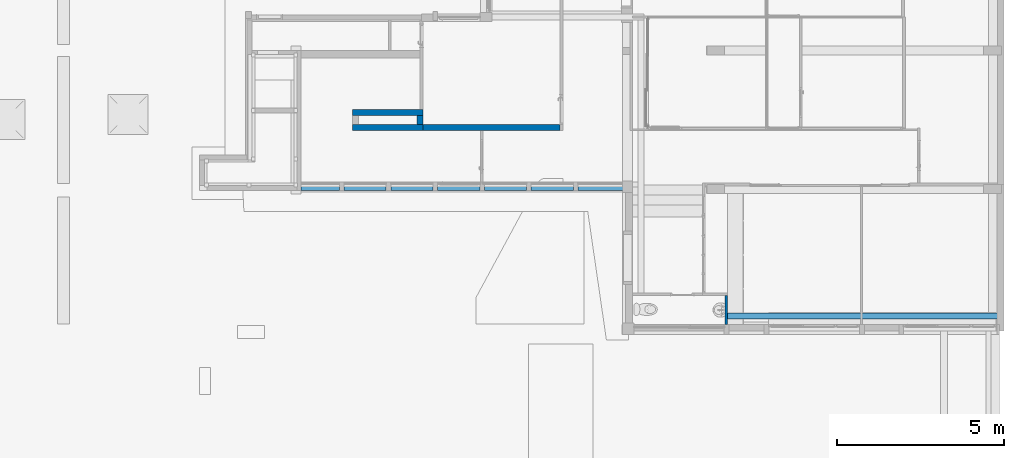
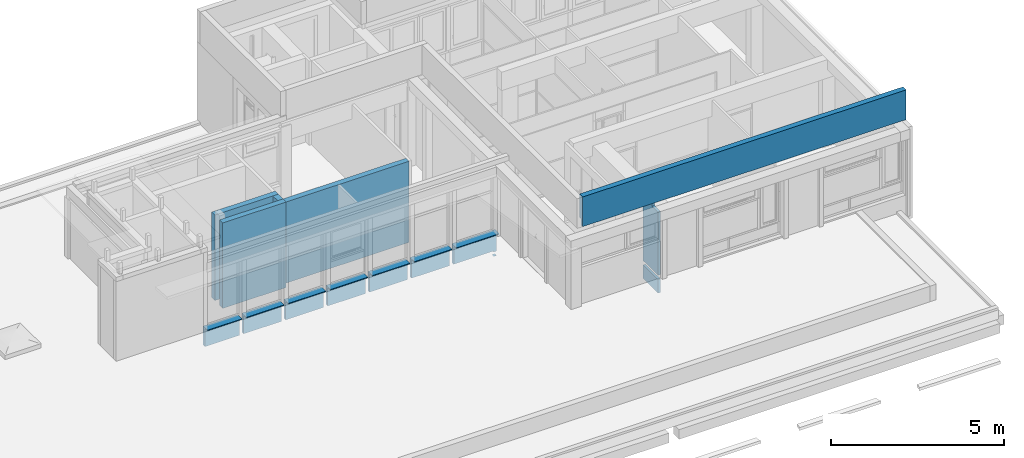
# One storey, part 32 of 49: 7 walls, 1 opening.
"""IFC4 building model written with IfcOpenShell, lengths in metres."""

from ifc_helpers import new_model, entity, si_unit, converted_unit, derived_unit, direction, frame, origin, place, context, subcontext, project, spatial, indexed_curve, outline, extrude, polygons, material, layer, layer_set, type_object, element, save


model = new_model("IFC4")

# Units and contexts
model_context = context("Model", 3, precision=1e-05, world=origin(), true_north=direction((6.12303176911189e-17, 1.0)))
body_context = subcontext(model_context, "Body", "Model", "MODEL_VIEW")
ifc_project = project(units=[si_unit("LENGTHUNIT", "METRE"), si_unit("AREAUNIT", "SQUARE_METRE"), si_unit("VOLUMEUNIT", "CUBIC_METRE"), converted_unit("PLANEANGLEUNIT", "DEGREE", entity("IfcRatioMeasure", 0.0174532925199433), si_unit("PLANEANGLEUNIT", "RADIAN"), dimensions=[0, 0, 0, 0, 0, 0, 0]), si_unit("MASSUNIT", "GRAM", prefix="KILO"), derived_unit("MASSDENSITYUNIT", [(si_unit("MASSUNIT", "GRAM", prefix="KILO"), 1), (si_unit("LENGTHUNIT", "METRE"), -3)]), derived_unit("MOMENTOFINERTIAUNIT", [(si_unit("LENGTHUNIT", "METRE"), 4)]), si_unit("TIMEUNIT", "SECOND"), si_unit("FREQUENCYUNIT", "HERTZ"), si_unit("THERMODYNAMICTEMPERATUREUNIT", "DEGREE_CELSIUS"), derived_unit("THERMALTRANSMITTANCEUNIT", [(si_unit("MASSUNIT", "GRAM", prefix="KILO"), 1), (si_unit("THERMODYNAMICTEMPERATUREUNIT", "KELVIN"), -1), (si_unit("TIMEUNIT", "SECOND"), -3)]), derived_unit("VOLUMETRICFLOWRATEUNIT", [(si_unit("LENGTHUNIT", "METRE"), 3), (si_unit("TIMEUNIT", "SECOND"), -1)]), si_unit("ELECTRICCURRENTUNIT", "AMPERE"), si_unit("ELECTRICVOLTAGEUNIT", "VOLT"), si_unit("POWERUNIT", "WATT"), si_unit("FORCEUNIT", "NEWTON", prefix="KILO"), si_unit("ILLUMINANCEUNIT", "LUX"), si_unit("LUMINOUSFLUXUNIT", "LUMEN"), si_unit("LUMINOUSINTENSITYUNIT", "CANDELA"), derived_unit("USERDEFINED", [(si_unit("MASSUNIT", "GRAM", prefix="KILO"), -1), (si_unit("LENGTHUNIT", "METRE"), -2), (si_unit("TIMEUNIT", "SECOND"), 3), (si_unit("LUMINOUSFLUXUNIT", "LUMEN"), 1)]), derived_unit("LINEARVELOCITYUNIT", [(si_unit("LENGTHUNIT", "METRE"), 1), (si_unit("TIMEUNIT", "SECOND"), -1)]), si_unit("PRESSUREUNIT", "PASCAL"), derived_unit("USERDEFINED", [(si_unit("LENGTHUNIT", "METRE"), -2), (si_unit("MASSUNIT", "GRAM", prefix="KILO"), 1), (si_unit("TIMEUNIT", "SECOND"), -2)]), derived_unit("LINEARFORCEUNIT", [(si_unit("MASSUNIT", "GRAM", prefix="KILO"), 1), (si_unit("LENGTHUNIT", "METRE"), 1), (si_unit("TIMEUNIT", "SECOND"), -2), (si_unit("LENGTHUNIT", "METRE"), -1)]), derived_unit("PLANARFORCEUNIT", [(si_unit("MASSUNIT", "GRAM", prefix="KILO"), 1), (si_unit("LENGTHUNIT", "METRE"), 1), (si_unit("TIMEUNIT", "SECOND"), -2), (si_unit("LENGTHUNIT", "METRE"), -2)])], contexts=[model_context])

# Site, building, storey
site_placement = place(None, origin())
site = spatial("IfcSite", under=ifc_project, at=site_placement, Name="Default", CompositionType="ELEMENT")
building_placement = place(site_placement, origin())
building = spatial("IfcBuilding", under=site, at=building_placement, Name="HOTEL CONSULAIRE BOULOGNE SUR MER", CompositionType="ELEMENT")
storey_placement = place(building_placement, frame((0.0, 0.0, 6.81974152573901)))
storey = spatial("IfcBuildingStorey", under=building, at=storey_placement, Name="Niveau 2", CompositionType="ELEMENT", Elevation=6.81974152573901)

# Walls
ifc_material = material(Name="Mur par défaut", Category="Divers")
ifc_layer_1 = layer(ifc_material, 0.18, Name="Mur par défaut", Category="Divers")
ifc_layer_set_1 = layer_set([ifc_layer_1], Name="Mur de base:Générique - Int.180")
wall_type_1 = type_object("IfcWallType", Name="Mur de base:Générique - Int.180", PredefinedType="NOTDEFINED", material=ifc_layer_set_1)
wall_1_placement = place(storey_placement, frame((3.2974549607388, -17.4788875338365, -0.18799999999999)))
element("IfcWall", 1, at=wall_1_placement, inside=storey, type_object=wall_type_1, material=ifc_layer_set_1, Name="Mur de base:Générique - Int.180", ObjectType="Mur de base:Générique - Int.180", PredefinedType="NOTDEFINED", context=body_context, shape_type="Tessellation", body=[
    polygons([(2.11452533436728, -0.0900000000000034, 0.0), (2.11452533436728, 0.0899999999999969, 0.0), (2.11452533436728, 0.0899999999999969, 0.00299999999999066), (2.11452533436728, -0.0900000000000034, 0.00299999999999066), (4.81441146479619e-16, -0.0900000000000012, 0.0), (0.180000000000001, -0.0900000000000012, 0.0), (1.93452533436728, -0.0900000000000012, 0.0), (2.03928488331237, -0.0900000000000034, 0.00299999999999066), (2.03928488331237, -0.0900000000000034, 0.15299999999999), (2.11452533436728, -0.0900000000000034, 0.15299999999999), (2.11452533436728, -0.0900000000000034, 3.00999999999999), (1.02287471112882e-15, -0.0900000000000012, 3.00999999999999), (1.93452533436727, 0.089999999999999, 0.0), (3.46731590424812e-16, 0.089999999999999, 0.0), (3.46731590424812e-16, 0.089999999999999, 3.00999999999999), (2.01452533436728, 0.089999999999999, 3.00999999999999), (2.11452533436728, 0.0899999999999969, 3.00999999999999), (2.11452533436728, 0.0899999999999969, 0.18799999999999), (2.11452533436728, 0.0899999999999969, 0.15299999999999), (2.03928488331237, 0.0899999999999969, 0.15299999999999), (2.03928488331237, 0.0899999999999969, 0.00299999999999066)], [[[4, 1, 2, 3]], [[11, 10, 19, 18, 17]], [[20, 9, 8, 21]], [[12, 5, 6, 7, 1, 4, 8, 9, 10, 11]], [[20, 21, 3, 2, 13, 14, 15, 16, 17, 18, 19]], [[1, 7, 6, 5, 14, 13, 2]], [[9, 20, 19, 10]], [[15, 14, 5, 12]], [[3, 21, 8, 4]], [[15, 12, 11, 17, 16]]], closed=True),
])
wall_2_placement = place(storey_placement, frame((3.2974549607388, -17.9348875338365, -0.18799999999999)))
element("IfcWall", 2, at=wall_2_placement, inside=storey, type_object=wall_type_1, material=ifc_layer_set_1, Name="Mur de base:Générique - Int.180", ObjectType="Mur de base:Générique - Int.180", PredefinedType="NOTDEFINED", context=body_context, shape_type="Tessellation", body=[
    polygons([(6.52394038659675e-16, -0.0900000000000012, 0.0), (2.11452533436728, -0.0900000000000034, 0.0), (2.11452533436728, -0.0900000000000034, 3.00999999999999), (6.52394038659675e-16, -0.0900000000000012, 3.00999999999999), (2.11452533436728, 0.0899999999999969, 0.0), (1.93452533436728, 0.089999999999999, 0.0), (0.18, 0.089999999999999, 0.0), (-2.45715217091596e-17, 0.089999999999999, 0.0), (5.16862042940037e-16, 0.089999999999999, 3.00999999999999), (1.93452533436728, 0.089999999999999, 3.00999999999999), (2.11452533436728, 0.0899999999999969, 3.00999999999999), (2.11452533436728, 0.0899999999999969, 0.152999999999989)], [[[4, 1, 2, 3]], [[10, 11, 12, 5, 6, 7, 8, 9]], [[2, 1, 8, 7, 6, 5]], [[9, 8, 1, 4]], [[3, 2, 5, 12, 11]], [[9, 4, 3, 11, 10]]], closed=True),
])
wall_3_placement = place(storey_placement, frame((5.32198029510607, -17.8448875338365, -0.18799999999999), z_axis=(0.0, 0.0, 1.0), x_axis=(0.0, 1.0, 0.0)))
element("IfcWall", 3, at=wall_3_placement, inside=storey, type_object=wall_type_1, material=ifc_layer_set_1, Name="Mur de base:Générique - Int.180", ObjectType="Mur de base:Générique - Int.180", PredefinedType="NOTDEFINED", context=body_context, shape_type="Tessellation", body=[
    polygons([(2.16573425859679e-15, -0.0900000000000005, 0.0), (0.276000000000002, -0.0900000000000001, 0.0), (0.276000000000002, -0.0900000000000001, 0.00299999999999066), (0.276000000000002, -0.0900000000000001, 0.15299999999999), (0.276000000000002, -0.0900000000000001, 3.00999999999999), (2.16573425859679e-15, -0.0900000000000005, 3.00999999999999), (0.276000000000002, 0.0900000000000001, 0.0), (2.16573425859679e-15, 0.0899999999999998, 0.0), (2.16573425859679e-15, 0.0899999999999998, 3.00999999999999), (0.276000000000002, 0.0900000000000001, 3.00999999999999)], [[[6, 1, 2, 3, 4, 5]], [[10, 7, 8, 9]], [[2, 1, 8, 7]], [[8, 1, 6, 9]], [[4, 3, 2, 7, 10, 5]], [[10, 9, 6, 5]]], closed=True),
])
wall_4_placement = place(storey_placement, frame((5.41198029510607, -17.9348875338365, -0.0350000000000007)))
element("IfcWall", 4, at=wall_4_placement, inside=storey, type_object=wall_type_1, material=ifc_layer_set_1, Name="Mur de base:Générique - Int.180", ObjectType="Mur de base:Générique - Int.180", PredefinedType="NOTDEFINED", context=body_context, shape_type="Tessellation", body=[
    polygons([(1.7352611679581e-15, -0.0900000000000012, 0.0), (1.71919647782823, -0.0900000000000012, 0.0), (1.78919647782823, -0.089999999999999, 0.0), (4.08897828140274, -0.0900000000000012, 0.0), (4.08897828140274, -0.0900000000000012, 0.0350000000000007), (4.08897828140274, -0.0900000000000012, 2.857), (1.78919647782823, -0.089999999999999, 2.857), (1.71919647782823, -0.0900000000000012, 2.857), (6.52394038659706e-16, -0.0900000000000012, 2.857), (4.08897828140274, 0.089999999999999, 0.0), (1.05829560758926e-15, 0.089999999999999, 0.0), (1.05829560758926e-15, 0.089999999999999, 2.857), (4.08897828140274, 0.089999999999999, 2.857), (4.08897828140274, 0.089999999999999, 2.11), (4.08897828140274, 0.089999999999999, 0.0350000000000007)], [[[1, 2, 3, 4, 5, 6, 7, 8, 9]], [[15, 10, 11, 12, 13, 14]], [[2, 1, 11, 10, 4, 3]], [[5, 4, 10, 15, 14, 13, 6]], [[11, 1, 9, 12]], [[12, 9, 8, 7, 6, 13]]], closed=True),
])
wall_5_placement = place(storey_placement, frame((12.0269435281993, -23.5721980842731, 3.052)))
element("IfcWall", 5, at=wall_5_placement, inside=storey, type_object=wall_type_1, material=ifc_layer_set_1, Name="Mur de base:Générique - Int.180", ObjectType="Mur de base:Générique - Int.180", PredefinedType="NOTDEFINED", context=body_context, shape_type="Tessellation", body=[
    polygons([(-3.5373473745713e-16, -0.0899999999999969, 0.0), (10.7709924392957, -0.0899999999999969, 0.0), (10.7709924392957, -0.0899999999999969, 1.04540452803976), (-3.5373473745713e-16, -0.0899999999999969, 1.04540452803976), (10.7709924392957, 0.0900000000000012, 1.04540452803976), (10.7709924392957, 0.0900000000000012, 0.0), (10.6709924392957, 0.0900000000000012, 0.0), (10.6709924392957, 0.0900000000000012, 0.23500000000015), (1.32044363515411e-15, 0.0900000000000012, 0.23500000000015), (1.32044363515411e-15, 0.0900000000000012, 1.04540452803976), (-5.99512680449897e-16, 0.0, 0.0), (10.6316947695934, 0.0, 0.0), (10.6709924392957, 0.0, 0.0), (-5.99512680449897e-16, 0.0, 0.23500000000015), (10.6709924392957, 0.0, 0.23500000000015)], [[[4, 1, 2, 3]], [[8, 9, 10, 5, 6, 7]], [[12, 11, 14, 15, 13]], [[2, 1, 11, 12, 13, 7, 6]], [[15, 14, 9, 8]], [[3, 2, 6, 5]], [[4, 3, 5, 10]], [[14, 11, 1, 4, 10, 9]], [[7, 13, 15, 8]]], closed=True),
])

# Wall, opening
ifc_layer_2 = layer(ifc_material, 0.08, Name="Mur par défaut", Category="Divers")
ifc_layer_set_2 = layer_set([ifc_layer_2], Name="Mur de base:Générique - Int. 80")
wall_type_2 = type_object("IfcWallType", Name="Mur de base:Générique - Int. 80", PredefinedType="NOTDEFINED", material=ifc_layer_set_2)
wall_6_placement = place(storey_placement, frame((14.4819086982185, -23.8271007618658, -0.0349999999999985), z_axis=(0.0, 0.0, 1.0), x_axis=(0.0, 1.0, 0.0)))
wall_6 = element("IfcWall", 6, at=wall_6_placement, inside=storey, type_object=wall_type_2, material=ifc_layer_set_2, Name="Mur de base:Générique - Int. 80", ObjectType="Mur de base:Générique - Int. 80", PredefinedType="NOTDEFINED", context=body_context, shape_type="Tessellation", body=[
    polygons([(0.0, -0.0399999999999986, -1.08286712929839e-15), (0.85750714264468, -0.0399999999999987, -1.08286712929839e-15), (0.85750714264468, -0.0399999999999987, 0.479999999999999), (0.0, -0.0399999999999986, 0.479999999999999), (0.85750714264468, 0.0400000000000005, -1.08286712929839e-15), (0.0, 0.0400000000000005, -1.08286712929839e-15), (0.0, 0.0400000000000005, 0.479999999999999), (0.85750714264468, 0.0400000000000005, 0.479999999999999)], [[[4, 1, 2, 3]], [[8, 5, 6, 7]], [[2, 1, 6, 5]], [[6, 1, 4, 7]], [[2, 5, 8, 3]], [[4, 3, 8, 7]]], closed=True),
    polygons([(0.85750714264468, -0.0399999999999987, 0.629999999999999), (0.85750714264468, 0.0400000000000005, 0.629999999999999), (0.85750714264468, 0.0400000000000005, 2.99200000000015), (0.85750714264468, -0.0399999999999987, 2.99200000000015), (0.344902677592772, -0.0399999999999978, 2.857), (0.0, -0.0399999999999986, 2.857), (0.0, -0.0399999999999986, 0.629999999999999), (0.344902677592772, -0.0399999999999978, 2.99200000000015), (0.0, 0.0400000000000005, 2.857), (0.344902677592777, 0.0400000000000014, 2.857), (0.344902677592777, 0.0400000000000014, 2.99200000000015), (0.0, 0.0400000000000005, 0.629999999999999)], [[[4, 1, 2, 3]], [[5, 6, 7, 1, 4, 8]], [[3, 2, 12, 9, 10, 11]], [[12, 7, 6, 9]], [[10, 5, 8, 11]], [[10, 9, 6, 5]], [[3, 11, 8, 4]], [[2, 1, 7, 12]]], closed=True),
])
opening_placement = place(storey_placement, frame((14.4819086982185, -23.8271007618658, -0.0349999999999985), z_axis=(0.0, 0.0, 1.0), x_axis=(0.0, 1.0, 0.0)))
element("IfcOpeningElement", 7, at=opening_placement, cuts=wall_6, Name="Mur de base:Générique - Int. 80:1", ObjectType="Opening", PredefinedType="OPENING", context=body_context, shape_type="SweptSolid", body=[
    extrude(outline(indexed_curve([(-0.428753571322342, -0.0400000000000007), (0.428753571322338, -0.0400000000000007), (0.428753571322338, 0.0399999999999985), (-0.428753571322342, 0.0399999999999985), (-0.428753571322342, -0.0400000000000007)], self_intersect=False)), frame((0.428753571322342, 0.0, 0.479999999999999)), (0.0, 0.0, 1.0), 0.149999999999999),
])

# Wall
ifc_layer_3 = layer(ifc_material, 0.25, Name="Mur par défaut", Category="Divers")
ifc_layer_set_3 = layer_set([ifc_layer_3], Name="Mur de base:Générique - Ext. 250 mm")
wall_type_3 = type_object("IfcWallType", Name="Mur de base:Générique - Ext. 250 mm", PredefinedType="NOTDEFINED", material=ifc_layer_set_3)
wall_7_placement = place(storey_placement, frame((1.75747131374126, -19.6899143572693, -0.18799999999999)))
element("IfcWall", 8, at=wall_7_placement, inside=storey, type_object=wall_type_3, material=ifc_layer_set_3, Name="Mur de base:Générique - Ext. 250 mm", ObjectType="Mur de base:Générique - Ext. 250 mm", PredefinedType="NOTDEFINED", context=body_context, shape_type="Tessellation", body=[
    polygons([(5.5744602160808e-17, 0.125000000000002, 0.857999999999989), (1.14674022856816, 0.125000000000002, 0.857999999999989), (1.14674022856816, 0.125000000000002, 0.187999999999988), (5.5744602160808e-17, 0.125000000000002, 0.187999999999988), (1.68814496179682e-16, -0.124999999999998, 0.857999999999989), (1.14674022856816, -0.124999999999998, 0.857999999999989), (1.14674022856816, 0.025000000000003, 0.830000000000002), (8.58979550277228e-16, 0.025000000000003, 0.830000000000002), (8.58979550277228e-16, 0.025000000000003, 0.187999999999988), (1.14674022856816, 0.025000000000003, 0.187999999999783), (1.68814496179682e-16, -0.124999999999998, 0.830000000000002), (1.14674022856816, -0.124999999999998, 0.830000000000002)], [[[2, 3, 4, 1]], [[5, 6, 2, 1]], [[9, 10, 7, 8]], [[5, 11, 12, 6]], [[8, 11, 5, 1, 4, 9]], [[7, 10, 3, 2, 6, 12]], [[7, 12, 11, 8]], [[10, 9, 4, 3]]], closed=True),
    polygons([(9.71447221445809, 0.125000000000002, 0.0), (9.61447221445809, 0.125000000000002, 0.0), (9.61447221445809, 0.125000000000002, 0.00299999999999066), (9.71447221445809, 0.125000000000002, 0.00299999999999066), (9.7144722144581, 0.025000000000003, 0.0), (9.61447221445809, 0.025000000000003, 0.0), (9.7144722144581, 0.025000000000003, 0.00299999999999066), (9.61447221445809, 0.025000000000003, 0.00299999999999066)], [[[4, 1, 2, 3]], [[5, 6, 2, 1]], [[7, 5, 1, 4]], [[6, 5, 7, 8]], [[3, 2, 6, 8]], [[4, 3, 8, 7]]], closed=True),
    polygons([(9.7144722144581, -0.124999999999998, 0.857999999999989), (8.28674022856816, -0.124999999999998, 0.857999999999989), (8.28674022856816, -0.124999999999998, 0.830000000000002), (9.7144722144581, -0.124999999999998, 0.830000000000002), (8.28674022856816, 0.125000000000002, 0.857999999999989), (9.71447221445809, 0.125000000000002, 0.857999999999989), (9.71447221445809, 0.125000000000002, 0.15299999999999), (9.61447221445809, 0.125000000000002, 0.15299999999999), (9.61447221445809, 0.125000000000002, 0.187999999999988), (8.28674022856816, 0.125000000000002, 0.187999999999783), (9.7144722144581, 0.025000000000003, 0.830000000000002), (9.7144722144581, 0.025000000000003, 0.15299999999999), (8.28674022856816, 0.025000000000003, 0.830000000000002), (9.61447221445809, 0.025000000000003, 0.830000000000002), (8.28674022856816, 0.025000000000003, 0.187999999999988), (9.61447221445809, 0.025000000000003, 0.187999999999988), (9.61447221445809, 0.025000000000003, 0.15299999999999)], [[[2, 3, 4, 1]], [[16, 17, 12, 11, 14, 13, 15]], [[9, 10, 5, 6, 7, 8]], [[1, 4, 11, 12, 7, 6]], [[14, 11, 4, 3, 13]], [[16, 15, 10, 9]], [[12, 17, 8, 7]], [[8, 17, 16, 9]], [[2, 5, 10, 15, 13, 3]], [[2, 1, 6, 5]]], closed=True),
    polygons([(2.54674022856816, -0.124999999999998, 0.857999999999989), (1.28674022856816, -0.124999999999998, 0.857999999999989), (1.28674022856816, -0.124999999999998, 0.830000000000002), (2.54674022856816, -0.124999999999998, 0.830000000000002), (1.28674022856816, 0.125000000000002, 0.187999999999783), (1.28674022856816, 0.125000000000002, 0.857999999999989), (2.54674022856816, 0.125000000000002, 0.857999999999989), (2.54674022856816, 0.125000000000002, 0.187999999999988), (1.28674022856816, 0.0250000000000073, 0.830000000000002), (2.54674022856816, 0.025000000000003, 0.830000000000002), (1.28674022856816, 0.025000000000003, 0.187999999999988), (2.54674022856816, 0.0250000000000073, 0.187999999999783)], [[[2, 3, 4, 1]], [[11, 12, 10, 9]], [[7, 8, 5, 6]], [[2, 1, 7, 6]], [[10, 4, 3, 9]], [[12, 11, 5, 8]], [[2, 6, 5, 11, 9, 3]], [[10, 12, 8, 7, 1, 4]]], closed=True),
    polygons([(3.94674022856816, -0.124999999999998, 0.857999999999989), (2.68674022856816, -0.124999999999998, 0.857999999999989), (2.68674022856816, -0.124999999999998, 0.830000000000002), (3.94674022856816, -0.124999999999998, 0.830000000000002), (2.68674022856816, 0.125000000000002, 0.187999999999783), (2.68674022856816, 0.125000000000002, 0.857999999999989), (3.94674022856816, 0.125000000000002, 0.857999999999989), (3.94674022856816, 0.125000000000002, 0.187999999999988), (2.68674022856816, 0.025000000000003, 0.830000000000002), (3.94674022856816, 0.025000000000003, 0.830000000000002), (2.68674022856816, 0.025000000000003, 0.187999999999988), (3.94674022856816, 0.025000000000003, 0.187999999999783)], [[[2, 3, 4, 1]], [[11, 12, 10, 9]], [[7, 8, 5, 6]], [[2, 1, 7, 6]], [[10, 4, 3, 9]], [[12, 11, 5, 8]], [[2, 6, 5, 11, 9, 3]], [[10, 12, 8, 7, 1, 4]]], closed=True),
    polygons([(5.34674022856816, -0.124999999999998, 0.857999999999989), (4.08674022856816, -0.124999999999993, 0.857999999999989), (4.08674022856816, -0.124999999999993, 0.830000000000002), (5.34674022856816, -0.124999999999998, 0.830000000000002), (4.08674022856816, 0.125000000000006, 0.187999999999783), (4.08674022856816, 0.125000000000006, 0.857999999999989), (5.34674022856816, 0.125000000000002, 0.857999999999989), (5.34674022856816, 0.125000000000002, 0.187999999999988), (4.08674022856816, 0.0250000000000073, 0.830000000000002), (5.34674022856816, 0.025000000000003, 0.830000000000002), (4.08674022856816, 0.0250000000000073, 0.187999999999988), (5.34674022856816, 0.025000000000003, 0.187999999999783)], [[[2, 3, 4, 1]], [[11, 12, 10, 9]], [[7, 8, 5, 6]], [[2, 1, 7, 6]], [[10, 4, 3, 9]], [[12, 11, 5, 8]], [[2, 6, 5, 11, 9, 3]], [[10, 12, 8, 7, 1, 4]]], closed=True),
    polygons([(6.74674022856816, -0.124999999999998, 0.857999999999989), (5.48674022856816, -0.124999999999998, 0.857999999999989), (5.48674022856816, -0.124999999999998, 0.830000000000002), (6.74674022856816, -0.124999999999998, 0.830000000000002), (5.48674022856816, 0.125000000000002, 0.187999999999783), (5.48674022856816, 0.125000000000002, 0.857999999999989), (6.74674022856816, 0.125000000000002, 0.857999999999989), (6.74674022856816, 0.125000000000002, 0.187999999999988), (5.48674022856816, 0.0249999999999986, 0.830000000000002), (6.74674022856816, 0.025000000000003, 0.830000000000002), (5.48674022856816, 0.025000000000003, 0.187999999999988), (6.74674022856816, 0.025000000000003, 0.187999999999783)], [[[2, 3, 4, 1]], [[11, 12, 10, 9]], [[7, 8, 5, 6]], [[2, 1, 7, 6]], [[10, 4, 3, 9]], [[12, 11, 5, 8]], [[2, 6, 5, 11, 9, 3]], [[10, 12, 8, 7, 1, 4]]], closed=True),
    polygons([(8.14674022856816, -0.124999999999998, 0.857999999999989), (6.88674022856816, -0.124999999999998, 0.857999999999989), (6.88674022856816, -0.124999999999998, 0.830000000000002), (8.14674022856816, -0.124999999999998, 0.830000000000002), (6.88674022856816, 0.125000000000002, 0.187999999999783), (6.88674022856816, 0.125000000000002, 0.857999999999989), (8.14674022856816, 0.125000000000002, 0.857999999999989), (8.14674022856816, 0.125000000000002, 0.187999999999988), (6.88674022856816, 0.025000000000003, 0.830000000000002), (8.14674022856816, 0.025000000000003, 0.830000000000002), (6.88674022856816, 0.025000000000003, 0.187999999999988), (8.14674022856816, 0.025000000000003, 0.187999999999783)], [[[2, 3, 4, 1]], [[11, 12, 10, 9]], [[7, 8, 5, 6]], [[2, 1, 7, 6]], [[10, 4, 3, 9]], [[12, 11, 5, 8]], [[2, 6, 5, 11, 9, 3]], [[10, 12, 8, 7, 1, 4]]], closed=True),
])

save(model, "model.ifc")
